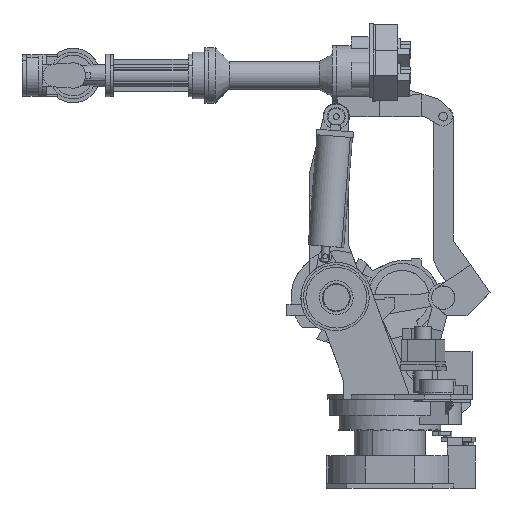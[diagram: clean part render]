
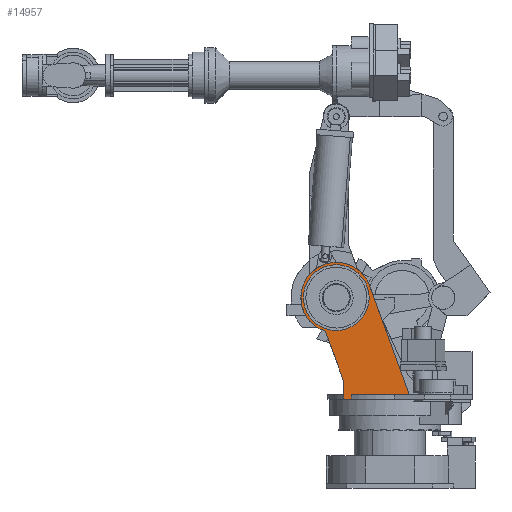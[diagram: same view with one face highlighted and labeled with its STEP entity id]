
A CAD part, left-side view. The second image highlights one B-rep face of the part: STEP entity #14957.
In plain terms, the highlighted planar face has unit normal (1, 0, 0).
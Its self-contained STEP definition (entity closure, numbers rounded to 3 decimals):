
#2228=CARTESIAN_POINT('Vertex',(-300.,280.,-2.)) ;
#2231=CARTESIAN_POINT('Line Origine',(-300.,256.619,-2.)) ;
#2235=CARTESIAN_POINT('Vertex',(-300.,233.238,-2.)) ;
#2429=CARTESIAN_POINT('Vertex',(-300.,280.,107.)) ;
#2432=CARTESIAN_POINT('Line Origine',(-300.,280.,66.)) ;
#2436=CARTESIAN_POINT('Vertex',(-300.,280.,25.)) ;
#2439=CARTESIAN_POINT('Line Origine',(-300.,280.,11.5)) ;
#3089=CARTESIAN_POINT('Vertex',(-300.,390.345,410.171)) ;
#3094=CARTESIAN_POINT('Line Origine',(-300.,335.173,258.585)) ;
#3723=CARTESIAN_POINT('Vertex',(-300.,122.966,688.534)) ;
#3726=CARTESIAN_POINT('Axis2P3D Location',(-300.,325.,615.)) ;
#4349=CARTESIAN_POINT('Vertex',(-300.,-118.541,25.)) ;
#4352=CARTESIAN_POINT('Line Origine',(-300.,2.213,356.767)) ;
#13059=CARTESIAN_POINT('Vertex',(-300.,420.885,790.516)) ;
#13062=CARTESIAN_POINT('Axis2P3D Location',(-300.,325.,615.)) ;
#13066=CARTESIAN_POINT('Vertex',(-300.,229.115,439.483)) ;
#13081=CARTESIAN_POINT('Axis2P3D Location',(-300.,325.,615.)) ;
#14918=CARTESIAN_POINT('Vertex',(-300.,233.238,25.)) ;
#14921=CARTESIAN_POINT('Line Origine',(-300.,233.238,11.5)) ;
#14933=CARTESIAN_POINT('Axis2P3D Location',(-300.,233.238,-5.)) ;
#14938=CARTESIAN_POINT('Line Origine',(-300.,57.349,25.)) ;
#2232=DIRECTION('Vector Direction',(0.,1.,0.)) ;
#2433=DIRECTION('Vector Direction',(0.,0.,1.)) ;
#2440=DIRECTION('Vector Direction',(0.,0.,1.)) ;
#3095=DIRECTION('Vector Direction',(0.,0.342,0.94)) ;
#3727=DIRECTION('Axis2P3D Direction',(-1.,0.,0.)) ;
#4353=DIRECTION('Vector Direction',(0.,0.342,0.94)) ;
#13063=DIRECTION('Axis2P3D Direction',(-1.,0.,0.)) ;
#13082=DIRECTION('Axis2P3D Direction',(-1.,0.,0.)) ;
#14922=DIRECTION('Vector Direction',(0.,0.,1.)) ;
#14934=DIRECTION('Axis2P3D Direction',(1.,0.,0.)) ;
#14935=DIRECTION('Axis2P3D XDirection',(0.,1.,0.)) ;
#14939=DIRECTION('Vector Direction',(0.,1.,0.)) ;
#3728=AXIS2_PLACEMENT_3D('Circle Axis2P3D',#3726,#3727,$) ;
#13064=AXIS2_PLACEMENT_3D('Circle Axis2P3D',#13062,#13063,$) ;
#13083=AXIS2_PLACEMENT_3D('Circle Axis2P3D',#13081,#13082,$) ;
#14936=AXIS2_PLACEMENT_3D('Plane Axis2P3D',#14933,#14934,#14935) ;
#14944=ORIENTED_EDGE('',*,*,#2438,.F.) ;
#14945=ORIENTED_EDGE('',*,*,#3098,.F.) ;
#14946=ORIENTED_EDGE('',*,*,#3730,.F.) ;
#14947=ORIENTED_EDGE('',*,*,#4356,.F.) ;
#14948=ORIENTED_EDGE('',*,*,#14942,.F.) ;
#14949=ORIENTED_EDGE('',*,*,#14925,.F.) ;
#14950=ORIENTED_EDGE('',*,*,#2237,.F.) ;
#14951=ORIENTED_EDGE('',*,*,#2443,.T.) ;
#14954=ORIENTED_EDGE('',*,*,#13068,.T.) ;
#14955=ORIENTED_EDGE('',*,*,#13085,.T.) ;
#14956=FACE_BOUND('',#14953,.T.) ;
#2233=VECTOR('Line Direction',#2232,1.) ;
#2434=VECTOR('Line Direction',#2433,1.) ;
#2441=VECTOR('Line Direction',#2440,1.) ;
#3096=VECTOR('Line Direction',#3095,1.) ;
#4354=VECTOR('Line Direction',#4353,1.) ;
#14923=VECTOR('Line Direction',#14922,1.) ;
#14940=VECTOR('Line Direction',#14939,1.) ;
#14957=ADVANCED_FACE('\X2\FF7BFF70FF8CFF6AFF7D\X0\.1',(#14952,#14956),#14937,.T.) ;
#3729=CIRCLE('generated circle',#3728,215.) ;
#13065=CIRCLE('generated circle',#13064,200.) ;
#13084=CIRCLE('generated circle',#13083,200.) ;
#2237=EDGE_CURVE('',#2229,#2236,#2234,.F.) ;
#2438=EDGE_CURVE('',#2430,#2437,#2435,.F.) ;
#2443=EDGE_CURVE('',#2229,#2437,#2442,.T.) ;
#3098=EDGE_CURVE('',#3090,#2430,#3097,.F.) ;
#3730=EDGE_CURVE('',#3724,#3090,#3729,.T.) ;
#4356=EDGE_CURVE('',#4350,#3724,#4355,.T.) ;
#13068=EDGE_CURVE('',#13067,#13060,#13065,.T.) ;
#13085=EDGE_CURVE('',#13060,#13067,#13084,.T.) ;
#14925=EDGE_CURVE('',#2236,#14919,#14924,.T.) ;
#14942=EDGE_CURVE('',#14919,#4350,#14941,.F.) ;
#14943=EDGE_LOOP('',(#14944,#14945,#14946,#14947,#14948,#14949,#14950,#14951)) ;
#14953=EDGE_LOOP('',(#14954,#14955)) ;
#14952=FACE_OUTER_BOUND('',#14943,.T.) ;
#2234=LINE('Line',#2231,#2233) ;
#2435=LINE('Line',#2432,#2434) ;
#2442=LINE('Line',#2439,#2441) ;
#3097=LINE('Line',#3094,#3096) ;
#4355=LINE('Line',#4352,#4354) ;
#14924=LINE('Line',#14921,#14923) ;
#14941=LINE('Line',#14938,#14940) ;
#14937=PLANE('',#14936) ;
#2229=VERTEX_POINT('',#2228) ;
#2236=VERTEX_POINT('',#2235) ;
#2430=VERTEX_POINT('',#2429) ;
#2437=VERTEX_POINT('',#2436) ;
#3090=VERTEX_POINT('',#3089) ;
#3724=VERTEX_POINT('',#3723) ;
#4350=VERTEX_POINT('',#4349) ;
#13060=VERTEX_POINT('',#13059) ;
#13067=VERTEX_POINT('',#13066) ;
#14919=VERTEX_POINT('',#14918) ;
